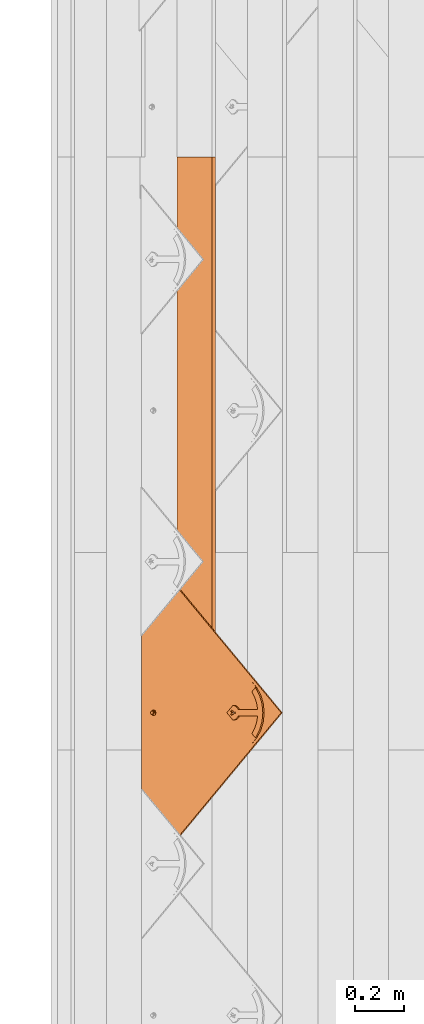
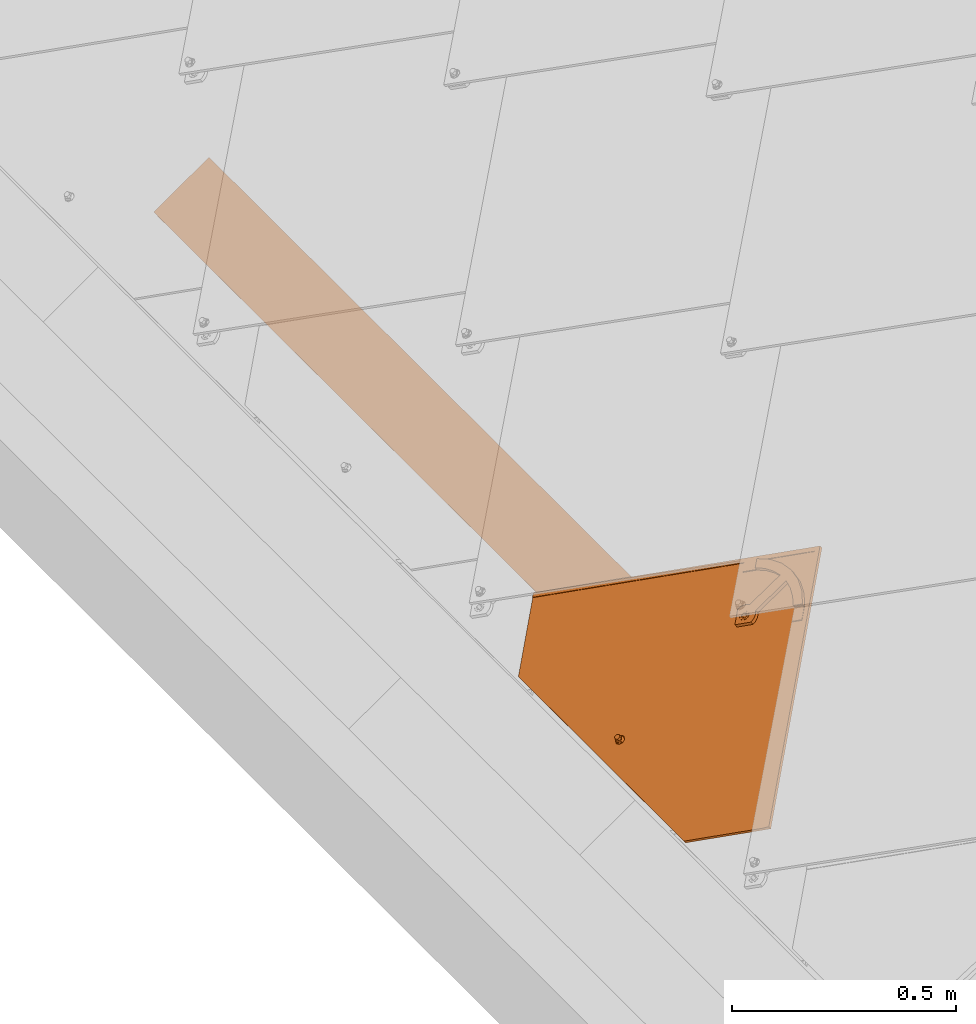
# One storey, part 52 of 151: 2 proxies, 1 element without a shape of its own.
"""IFC2X3 building model written with IfcOpenShell, lengths in millimetres."""

from ifc_helpers import new_model, entity, si_unit, converted_unit, derived_unit, direction, frame, frame_2d, origin, place, context, subcontext, project, spatial, rectangle, extrude, faceted_brep, source, transform, mapped, material, material_list, type_object, type_shapes, element, aggregate, save


model = new_model("IFC2X3")

# Units and contexts
model_context = context("Model", 3, precision=0.01, world=origin(), true_north=direction((6.12303176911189e-17, 1.0)))
body_context = subcontext(model_context, "Body", "Model", "MODEL_VIEW")
ifc_project = project(units=[si_unit("LENGTHUNIT", "METRE", prefix="MILLI"), si_unit("AREAUNIT", "SQUARE_METRE"), si_unit("VOLUMEUNIT", "CUBIC_METRE"), converted_unit("PLANEANGLEUNIT", "DEGREE", entity("IfcRatioMeasure", 0.0174532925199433), si_unit("PLANEANGLEUNIT", "RADIAN"), dimensions=[0, 0, 0, 0, 0, 0, 0]), si_unit("MASSUNIT", "GRAM", prefix="KILO"), derived_unit("MASSDENSITYUNIT", [(si_unit("MASSUNIT", "GRAM", prefix="KILO"), 1), (si_unit("LENGTHUNIT", "METRE"), -3)]), si_unit("TIMEUNIT", "SECOND"), si_unit("FREQUENCYUNIT", "HERTZ"), si_unit("THERMODYNAMICTEMPERATUREUNIT", "DEGREE_CELSIUS"), derived_unit("THERMALTRANSMITTANCEUNIT", [(si_unit("MASSUNIT", "GRAM", prefix="KILO"), 1), (si_unit("THERMODYNAMICTEMPERATUREUNIT", "KELVIN"), -1), (si_unit("TIMEUNIT", "SECOND"), -3)]), derived_unit("VOLUMETRICFLOWRATEUNIT", [(si_unit("LENGTHUNIT", "METRE"), 3), (si_unit("TIMEUNIT", "SECOND"), -1)]), si_unit("ELECTRICCURRENTUNIT", "AMPERE"), si_unit("ELECTRICVOLTAGEUNIT", "VOLT"), si_unit("POWERUNIT", "WATT"), si_unit("FORCEUNIT", "NEWTON", prefix="KILO"), si_unit("ILLUMINANCEUNIT", "LUX"), si_unit("LUMINOUSFLUXUNIT", "LUMEN"), si_unit("LUMINOUSINTENSITYUNIT", "CANDELA"), derived_unit("USERDEFINED", [(si_unit("MASSUNIT", "GRAM", prefix="KILO"), -1), (si_unit("LENGTHUNIT", "METRE"), -2), (si_unit("TIMEUNIT", "SECOND"), 3), (si_unit("LUMINOUSFLUXUNIT", "LUMEN"), 1)]), derived_unit("LINEARVELOCITYUNIT", [(si_unit("LENGTHUNIT", "METRE"), 1), (si_unit("TIMEUNIT", "SECOND"), -1)]), si_unit("PRESSUREUNIT", "PASCAL"), derived_unit("USERDEFINED", [(si_unit("LENGTHUNIT", "METRE"), -2), (si_unit("MASSUNIT", "GRAM", prefix="KILO"), 1), (si_unit("TIMEUNIT", "SECOND"), -2)])], contexts=[model_context])

# Site, building, storey
site_placement = place(None, origin())
site = spatial("IfcSite", under=ifc_project, at=site_placement, Name="Default", CompositionType="ELEMENT")
building_placement = place(site_placement, origin())
building = spatial("IfcBuilding", under=site, at=building_placement, CompositionType="ELEMENT")
storey_placement = place(building_placement, origin())
storey = spatial("IfcBuildingStorey", under=building, at=storey_placement, Name="Level 1", CompositionType="ELEMENT", Elevation=0.0)

# Assembly, proxy
assembly_placement = place(storey_placement, origin())
assembly = element("IfcElementAssembly", 1, at=assembly_placement, inside=storey, Name="Structural Framing Assembly:Roof Construction Assembly", ObjectType="Structural Framing Assembly:Roof Construction Assembly", AssemblyPlace="NOTDEFINED", PredefinedType="USERDEFINED")
ifc_material_1 = material(Name="Wood - Generic - Wood For Showcase")
building_element_proxy_type_1 = type_object("IfcBuildingElementProxyType", Name="Structural Framing 15", PredefinedType="NOTDEFINED", material=ifc_material_1)
shared_shape_1 = source(origin(), body_context, "Body", "SweptSolid", [
    extrude(rectangle(XDim=24.9999999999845, YDim=174.344679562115, at=frame_2d((-1.77635683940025e-13, -4.54747350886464e-13), x_axis=(0.0, 1.0))), frame((1128.20180147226, 1525.55080214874, 2760.23940055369), z_axis=(0.0, 1.0, 0.0), x_axis=(-0.819152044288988, 0.0, -0.573576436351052)), (0.0, 0.0, 1.0), 2399.99999999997),
])
type_shapes(building_element_proxy_type_1, [shared_shape_1])
proxy_1_placement = place(assembly_placement, frame((-3227.25254439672, -870.0, -2300.0)))
proxy_1 = element("IfcBuildingElementProxy", 2, at=proxy_1_placement, type_object=building_element_proxy_type_1, material=ifc_material_1, Name="Structural Framing 130:Structural Framing 15", ObjectType="Structural Framing 130:Structural Framing 15", context=body_context, shape_type="MappedRepresentation", body=[
    mapped(shared_shape_1, transform((0.0, 0.0, 0.0), scale=1.0)),
])
aggregate(assembly, [proxy_1])

# Proxy
ifc_material_2 = material(Name="Rubber - Sunstyle - Black")
ifc_material_3 = material(Name="Glass - Sunstyle - Tainted Black")
ifc_material_list_1 = material_list([ifc_material_2, ifc_material_3])
ifc_material_list_2 = material_list([ifc_material_2, ifc_material_3])
building_element_proxy_type_2 = type_object("IfcBuildingElementProxyType", Name="Shingle Bottom - Black", PredefinedType="NOTDEFINED", material=ifc_material_list_2)
shared_shape_2 = source(origin(), body_context, "Body", "Brep", [
    faceted_brep([(0.0, -1.79273515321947, -4.01619789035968), (-5.7742028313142, -5.12600528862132, -3.96037390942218), (-5.77420283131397, -4.75769619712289, 18.0314954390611), (0.0, -1.42442606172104, 17.9756714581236), (-5.77420283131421, -11.792545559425, -3.84872594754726), (-5.77420283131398, -11.4242364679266, 18.143143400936), (0.0, -15.1258156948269, -3.79290196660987), (0.0, -14.7575066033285, 18.1989673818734), (5.77420283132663, -11.7925455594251, -3.84872594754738), (5.77420283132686, -11.4242364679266, 18.1431434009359), (5.77420283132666, -5.12600528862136, -3.96037390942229), (5.77420283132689, -4.75769619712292, 18.031495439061), (-8.60370416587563, -16.6934641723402, 18.2313898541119), (0.0, -20.2567354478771, 18.2910657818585), (-12.1674751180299, -8.09096633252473, 18.0873194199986), (-8.60370416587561, 0.511531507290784, 17.9432489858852), (0.0, 4.07480278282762, 17.8835730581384), (8.60370416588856, 0.511531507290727, 17.9432489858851), (12.1674751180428, -8.09096633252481, 18.0873194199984), (8.60370416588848, -16.6934641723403, 18.2313898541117), (-11.4302228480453, -6.71737066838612, 20.4858706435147), (-9.77051349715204, -8.02009729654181, 22.3189355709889), (0.0, -0.706876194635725, 22.9603444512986), (0.0, 0.533621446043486, 22.3799978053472), (0.0, 2.69117229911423, 21.3706227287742), (-6.32324569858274, -4.35709193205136, 23.021476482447), (-6.32324569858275, -11.6575234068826, 23.1437405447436), (0.0, -18.7571148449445, 21.7298281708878), (0.0, -15.3077391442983, 23.2048725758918), (10.9851748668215, -11.808022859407, 20.3827540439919), (10.123850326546, -8.02413622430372, 22.0777687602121), (6.32324569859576, -4.3570919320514, 23.0214764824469), (6.32324569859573, -11.6575234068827, 23.1437405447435), (-6.32324569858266, -11.5234949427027, 31.146628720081), (0.0, -15.1737106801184, 31.2077607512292), (0.0, -7.8732792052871, 31.0854966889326), (-6.32324569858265, -4.22306346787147, 31.0243646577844), (6.32324569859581, -11.5234949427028, 31.1466287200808), (6.32324569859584, -4.22306346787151, 31.0243646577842), (0.0, -0.57284773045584, 30.963232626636), (0.0, -8.45927542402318, -3.90454992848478)], [[[0, 1, 2, 3]], [[1, 4, 5, 2]], [[4, 6, 7, 5]], [[6, 8, 9, 7]], [[8, 10, 11, 9]], [[10, 0, 3, 11]], [[12, 7, 13]], [[7, 12, 5]], [[14, 5, 12]], [[5, 14, 2]], [[15, 2, 14]], [[3, 2, 15]], [[15, 16, 3]], [[16, 17, 3]], [[11, 3, 17]], [[11, 17, 18]], [[9, 11, 18]], [[18, 19, 9]], [[7, 9, 19]], [[19, 13, 7]], [[15, 20, 16]], [[21, 22, 23, 24]], [[22, 21, 25]], [[20, 14, 12]], [[15, 14, 20]], [[25, 21, 26]], [[20, 24, 16]], [[12, 13, 27]], [[12, 27, 20]], [[21, 28, 26]], [[21, 27, 28]], [[20, 21, 24]], [[20, 27, 21]], [[19, 29, 13]], [[30, 23, 31]], [[30, 28, 27]], [[24, 23, 30]], [[29, 27, 13]], [[19, 18, 29]], [[29, 30, 27]], [[29, 17, 24]], [[24, 17, 16]], [[31, 32, 30]], [[23, 22, 31]], [[28, 30, 32]], [[29, 24, 30]], [[29, 18, 17]], [[33, 34, 35]], [[35, 36, 33]], [[34, 37, 35]], [[38, 35, 37]], [[35, 38, 39]], [[35, 39, 36]], [[40, 6, 4]], [[4, 1, 40]], [[1, 0, 40]], [[40, 8, 6]], [[0, 10, 40]], [[8, 40, 10]], [[22, 25, 36, 39]], [[25, 26, 33, 36]], [[26, 28, 34, 33]], [[28, 32, 37, 34]], [[32, 31, 38, 37]], [[31, 22, 39, 38]]]),
    faceted_brep([(0.0, 372.824876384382, 20.3195200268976), (0.0, 377.324245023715, 20.2441667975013), (-8.60370416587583, 376.388147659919, 20.2598440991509), (8.60370416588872, 376.388147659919, 20.2598440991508), (6.64022859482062, 381.157445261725, 20.1799702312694), (12.1674751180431, 384.990645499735, 20.1157736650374), (6.64022859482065, 388.823845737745, 20.0515770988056), (8.6037041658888, 393.59314333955, 19.9717032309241), (0.0, 392.657045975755, 19.9873805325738), (0.0, 397.156414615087, 19.9120273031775), (-8.60370416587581, 393.59314333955, 19.9717032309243), (-6.64022859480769, 388.823845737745, 20.0515770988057), (-12.1674751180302, 384.990645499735, 20.1157736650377), (-6.6402285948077, 381.157445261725, 20.1799702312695), (-6.6402282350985, 388.555922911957, 4.05382046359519), (0.0, 392.389122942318, 3.98962390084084), (-6.64022823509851, 380.889522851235, 4.18221358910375), (0.0, 377.056322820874, 4.24641015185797), (6.64022823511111, 380.889522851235, 4.18221358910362), (6.64022823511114, 388.555922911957, 4.05382046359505), (-8.603704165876, 376.12022504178, 4.26208746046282), (0.0, 372.556953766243, 4.32176338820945), (-12.1674751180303, 384.722722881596, 4.11801702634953), (-8.60370416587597, 393.325220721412, 3.97394659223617), (0.0, 396.888491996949, 3.91427066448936), (8.60370416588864, 393.325220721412, 3.97394659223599), (12.1674751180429, 384.722722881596, 4.11801702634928), (8.60370416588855, 376.12022504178, 4.26208746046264)], [[[0, 1, 2]], [[1, 0, 3]], [[3, 4, 1]], [[4, 3, 5]], [[6, 4, 5]], [[5, 7, 6]], [[7, 8, 6]], [[8, 7, 9]], [[8, 9, 10]], [[10, 11, 8]], [[12, 11, 10]], [[2, 13, 12]], [[12, 13, 11]], [[13, 2, 1]], [[8, 11, 14, 15]], [[11, 13, 16, 14]], [[13, 1, 17, 16]], [[1, 4, 18, 17]], [[4, 6, 19, 18]], [[6, 8, 15, 19]], [[20, 17, 21]], [[17, 20, 16]], [[22, 16, 20]], [[14, 16, 22]], [[23, 14, 22]], [[15, 14, 23]], [[23, 24, 15]], [[24, 25, 15]], [[19, 15, 25]], [[19, 25, 26]], [[26, 18, 19]], [[26, 27, 18]], [[17, 18, 27]], [[27, 21, 17]], [[24, 23, 10, 9]], [[10, 23, 22, 12]], [[20, 21, 0, 2]], [[20, 2, 12, 22]], [[21, 27, 3, 0]], [[3, 27, 26, 5]], [[25, 24, 9, 7]], [[25, 7, 5, 26]]]),
    faceted_brep([(518.247351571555, 79.9143812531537, 14.965257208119), (526.732038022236, 88.3990677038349, 14.8231598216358), (526.732038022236, 88.4241854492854, 16.3229495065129), (518.247351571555, 79.9394989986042, 16.4650468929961), (0.000322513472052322, 598.016093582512, 6.28834266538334), (-518.246706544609, 79.9143812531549, 14.9652572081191), (-526.73139299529, 88.3990677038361, 14.8231598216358), (0.000322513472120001, 614.983087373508, 6.00418773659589), (0.000322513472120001, 615.008205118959, 7.50397742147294), (-526.731392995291, 88.4241854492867, 16.3229495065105), (-518.246706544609, 79.9394989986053, 16.465046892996), (0.000322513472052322, 598.041211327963, 7.78813235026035)], [[[0, 1, 2, 3]], [[1, 0, 4, 5, 6, 7]], [[2, 1, 7, 8]], [[3, 2, 8, 9, 10, 11]], [[0, 3, 11, 4]], [[5, 10, 9, 6]], [[8, 7, 6, 9]], [[4, 11, 10, 5]]]),
    faceted_brep([(0.00032251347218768, 614.983087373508, 6.00418773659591), (-2.87802047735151, 396.187349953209, 9.66847193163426), (0.227808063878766, 396.596182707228, 9.6616250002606), (-5.77219193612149, 394.988712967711, 9.68854611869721), (3.3336366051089, 396.187349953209, 9.66847193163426), (6.22780806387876, 394.988712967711, 9.6885461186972), (8.71308943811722, 393.081956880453, 9.72047953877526), (10.620112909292, 390.59702396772, 9.76209598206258), (-8.25747331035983, 393.081956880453, 9.72047953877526), (-10.1644967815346, 390.59702396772, 9.76209598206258), (-11.3633018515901, 387.703258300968, 9.81055935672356), (-526.731392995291, 88.3990677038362, 14.8231598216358), (11.8189179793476, 387.703258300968, 9.81055935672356), (526.732038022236, 88.3990677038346, 14.8231598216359), (-11.7721919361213, 384.597865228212, 9.86256696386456), (-11.3633018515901, 381.492472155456, 9.91457457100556), (-10.1644967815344, 378.598706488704, 9.96303794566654), (-370.355016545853, -67.9334607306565, 17.4413406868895), (-8.25747331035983, 376.113773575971, 10.0046543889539), (-5.65685424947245, -2.29422365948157, 16.3420467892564), (-6.92820323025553, -3.95084560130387, 16.3697910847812), (-7.72740661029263, -5.88002271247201, 16.4021000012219), (-8.0, -7.95028476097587, 16.4367717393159), (-7.72740661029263, -10.0205468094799, 16.4714434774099), (-6.9282032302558, -11.9497239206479, 16.5037523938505), (-5.65685424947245, -13.6063458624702, 16.5314966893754), (-4.0, -14.8775165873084, 16.5527856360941), (-2.07055236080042, -15.676607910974, 16.5661684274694), (0.0, -15.9491630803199, 16.5707330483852), (370.355661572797, -67.9334607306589, 17.4413406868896), (10.620112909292, 378.598706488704, 9.96303794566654), (8.71308943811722, 376.11377357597, 10.0046543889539), (5.65685424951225, -2.29422365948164, 16.3420467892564), (6.92820323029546, -3.9508456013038, 16.3697910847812), (7.72740661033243, -5.88002271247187, 16.4021000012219), (8.0, -7.9502847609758, 16.4367717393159), (7.72740661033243, -10.0205468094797, 16.4714434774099), (6.92820323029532, -11.9497239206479, 16.5037523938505), (5.65685424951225, -13.6063458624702, 16.5314966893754), (4.0, -14.8775165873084, 16.5527856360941), (2.07055236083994, -15.676607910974, 16.5661684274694), (-5.77219193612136, 374.207017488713, 10.0365878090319), (-4.0, -1.02305293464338, 16.3207578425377), (-2.87802047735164, 373.008380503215, 10.0566619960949), (-2.07055236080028, -0.223961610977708, 16.3073750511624), (0.227808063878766, 372.599547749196, 10.0635089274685), (0.0, 0.0485935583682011, 16.3028104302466), (2.07055236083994, -0.223961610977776, 16.3073750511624), (3.3336366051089, 373.008380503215, 10.0566619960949), (4.0, -1.02305293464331, 16.3207578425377), (6.22780806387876, 374.207017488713, 10.0365878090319), (12.2278080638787, 384.597865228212, 9.86256696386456), (11.8189179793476, 381.492472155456, 9.91457457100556), (-370.355016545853, -68.059049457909, 9.94239226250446), (-6.92820323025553, -4.07643432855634, 8.87084266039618), (-7.72740661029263, -6.00561143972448, 8.90315157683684), (-8.0, -8.07587348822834, 8.93782331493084), (-7.72740661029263, -10.1461355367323, 8.97249505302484), (-6.9282032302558, -12.0753126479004, 9.00480396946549), (-5.65685424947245, -13.7319345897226, 9.03254826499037), (-5.65685424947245, -2.41981238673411, 8.8430983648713), (-8.25747331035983, 375.988184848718, 2.50570596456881), (-4.0, -15.0031053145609, 9.05383721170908), (-2.07055236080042, -15.8021966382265, 9.06722000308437), (0.0, -16.0747518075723, 9.07178462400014), (370.355661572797, -68.0590494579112, 9.9423922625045), (-10.1644967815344, 378.473117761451, 2.46408952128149), (-526.731392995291, 88.2734789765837, 7.32421139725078), (-11.3633018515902, 381.366883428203, 2.41562614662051), (-11.7721919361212, 384.472276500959, 2.36361853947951), (-11.3633018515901, 387.577669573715, 2.3116109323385), (0.00032251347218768, 614.857498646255, -1.49476068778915), (-10.1644967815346, 390.471435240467, 2.26314755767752), (-8.25747331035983, 392.956368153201, 2.22153111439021), (-5.77219193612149, 394.863124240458, 2.18959769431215), (-2.87802047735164, 396.061761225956, 2.16952350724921), (0.227808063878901, 396.470593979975, 2.16267657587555), (3.3336366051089, 396.061761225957, 2.1695235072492), (6.22780806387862, 394.863124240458, 2.18959769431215), (8.71308943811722, 392.956368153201, 2.2215311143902), (10.620112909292, 390.471435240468, 2.26314755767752), (11.8189179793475, 387.577669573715, 2.31161093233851), (526.732038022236, 88.2734789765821, 7.32421139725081), (12.2278080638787, 384.472276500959, 2.3636185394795), (10.620112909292, 378.473117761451, 2.46408952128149), (11.8189179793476, 381.366883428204, 2.41562614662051), (-5.77219193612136, 374.08142876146, 2.53763938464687), (-4.0, -1.14864166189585, 8.8218094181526), (-2.87802047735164, 372.882791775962, 2.55771357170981), (-2.07055236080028, -0.349550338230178, 8.8084266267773), (0.227808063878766, 372.473959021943, 2.56456050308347), (0.0, -0.0769951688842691, 8.80386200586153), (2.07055236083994, -0.349550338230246, 8.8084266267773), (3.3336366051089, 372.882791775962, 2.55771357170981), (4.0, -1.14864166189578, 8.8218094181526), (6.22780806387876, 374.081428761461, 2.53763938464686), (5.65685424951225, -2.41981238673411, 8.8430983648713), (8.71308943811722, 375.988184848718, 2.50570596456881), (6.92820323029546, -4.07643432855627, 8.87084266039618), (7.72740661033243, -6.00561143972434, 8.90315157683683), (8.0, -8.07587348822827, 8.93782331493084), (7.72740661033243, -10.1461355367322, 8.97249505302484), (6.92820323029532, -12.0753126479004, 9.00480396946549), (5.65685424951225, -13.7319345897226, 9.03254826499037), (4.0, -15.0031053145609, 9.05383721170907), (2.07055236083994, -15.8021966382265, 9.06722000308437)], [[[0, 1, 2]], [[1, 0, 3]], [[0, 2, 4]], [[4, 5, 0]], [[5, 6, 0]], [[0, 6, 7]], [[8, 3, 0]], [[9, 8, 0]], [[9, 0, 10]], [[10, 0, 11]], [[12, 0, 7]], [[12, 13, 0]], [[11, 14, 10]], [[14, 11, 15]], [[16, 15, 11]], [[11, 17, 16]], [[16, 17, 18]], [[19, 18, 17]], [[19, 17, 20]], [[20, 17, 21]], [[22, 21, 17]], [[22, 17, 23]], [[24, 23, 17]], [[17, 25, 24]], [[26, 25, 17]], [[27, 26, 17]], [[17, 28, 27]], [[28, 17, 29]], [[29, 13, 30]], [[29, 30, 31]], [[29, 31, 32]], [[32, 33, 29]], [[33, 34, 29]], [[35, 29, 34]], [[29, 35, 36]], [[36, 37, 29]], [[29, 37, 38]], [[38, 39, 29]], [[40, 28, 29]], [[39, 40, 29]], [[41, 18, 19]], [[42, 41, 19]], [[42, 43, 41]], [[44, 43, 42]], [[44, 45, 43]], [[46, 45, 44]], [[47, 45, 46]], [[48, 45, 47]], [[49, 48, 47]], [[49, 50, 48]], [[32, 50, 49]], [[32, 31, 50]], [[12, 51, 13]], [[52, 13, 51]], [[13, 52, 30]], [[53, 54, 55]], [[53, 55, 56]], [[56, 57, 53]], [[57, 58, 53]], [[53, 58, 59]], [[60, 54, 53]], [[61, 60, 53]], [[59, 62, 53]], [[62, 63, 53]], [[63, 64, 53]], [[53, 64, 65]], [[66, 61, 53]], [[66, 53, 67]], [[68, 66, 67]], [[69, 68, 67]], [[69, 67, 70]], [[67, 71, 70]], [[72, 70, 71]], [[73, 72, 71]], [[71, 74, 73]], [[74, 71, 75]], [[75, 71, 76]], [[77, 76, 71]], [[77, 71, 78]], [[79, 78, 71]], [[71, 80, 79]], [[80, 71, 81]], [[71, 82, 81]], [[83, 81, 82]], [[84, 82, 65]], [[85, 82, 84]], [[82, 85, 83]], [[86, 60, 61]], [[86, 87, 60]], [[88, 87, 86]], [[89, 87, 88]], [[90, 89, 88]], [[90, 91, 89]], [[92, 91, 90]], [[92, 90, 93]], [[94, 92, 93]], [[93, 95, 94]], [[94, 95, 96]], [[97, 96, 95]], [[96, 97, 65]], [[84, 65, 97]], [[98, 96, 65]], [[99, 98, 65]], [[99, 65, 100]], [[101, 100, 65]], [[102, 101, 65]], [[103, 102, 65]], [[104, 103, 65]], [[105, 104, 65]], [[65, 64, 105]], [[11, 0, 71, 67]], [[17, 11, 67, 53]], [[13, 29, 65, 82]], [[0, 13, 82, 71]], [[22, 56, 55, 21]], [[21, 55, 54, 20]], [[42, 19, 60, 87]], [[60, 19, 20, 54]], [[44, 42, 87, 89]], [[44, 89, 91, 46]], [[46, 91, 92, 47]], [[47, 92, 94, 49]], [[33, 32, 96, 98]], [[96, 32, 49, 94]], [[34, 33, 98, 99]], [[34, 99, 100, 35]], [[35, 100, 101, 36]], [[36, 101, 102, 37]], [[39, 38, 103, 104]], [[103, 38, 37, 102]], [[40, 39, 104, 105]], [[40, 105, 64, 28]], [[28, 64, 63, 27]], [[27, 63, 62, 26]], [[24, 25, 59, 58]], [[59, 25, 26, 62]], [[23, 24, 58, 57]], [[23, 57, 56, 22]], [[14, 69, 70, 10]], [[10, 70, 72, 9]], [[3, 8, 73, 74]], [[73, 8, 9, 72]], [[1, 3, 74, 75]], [[1, 75, 76, 2]], [[2, 76, 77, 4]], [[4, 77, 78, 5]], [[7, 6, 79, 80]], [[79, 6, 5, 78]], [[12, 7, 80, 81]], [[12, 81, 83, 51]], [[51, 83, 85, 52]], [[52, 85, 84, 30]], [[50, 31, 97, 95]], [[97, 31, 30, 84]], [[48, 50, 95, 93]], [[48, 93, 90, 45]], [[45, 90, 88, 43]], [[43, 88, 86, 41]], [[16, 18, 61, 66]], [[41, 86, 61, 18]], [[68, 15, 16, 66]], [[15, 68, 69, 14]], [[29, 17, 53, 65]]]),
    faceted_brep([(-111.269043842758, 451.472531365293, 11.2429332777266), (-84.9443960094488, 477.793488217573, 10.8021227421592), (-102.027571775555, 494.874268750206, 10.5160621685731), (-108.279973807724, 489.512620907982, 10.6058564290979), (-114.2509690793, 483.839345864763, 10.7008696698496), (-128.946713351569, 469.147722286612, 10.9469178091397), (128.946713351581, 469.147722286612, 10.9469178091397), (114.250969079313, 483.839345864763, 10.7008696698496), (108.279973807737, 489.512620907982, 10.6058564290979), (102.027571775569, 494.874268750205, 10.5160621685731), (84.9431983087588, 477.794685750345, 10.802102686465), (111.269043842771, 451.472531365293, 11.2429332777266), (-8.48528137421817, 393.302959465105, 19.7181805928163), (-18.7041061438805, 407.484939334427, 19.4806677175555), (-23.2046504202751, 402.851933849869, 19.5582590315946), (-10.3923048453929, 390.818026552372, 19.7597970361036), (-6.0, 395.209715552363, 19.6862471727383), (-13.2999999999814, 411.02298750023, 19.4214142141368), (-3.10582854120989, 396.408352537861, 19.6661729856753), (0.0, 396.81718529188, 19.6593260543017), (13.3000000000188, 411.022987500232, 19.4214142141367), (3.10582854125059, 396.408352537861, 19.6661729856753), (6.0, 395.209715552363, 19.6862471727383), (18.7041061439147, 407.484939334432, 19.4806677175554), (8.48528137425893, 393.302959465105, 19.7181805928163), (23.2046504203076, 402.85193384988, 19.5582590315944), (10.3923048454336, 390.818026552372, 19.7597970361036), (26.5842195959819, 397.347783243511, 19.6504398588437), (11.5911099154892, 387.92426088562, 19.8082604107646), (28.6795527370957, 391.238383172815, 19.752757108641), (12.0, 384.818867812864, 19.8602680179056), (29.3894280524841, 384.818867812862, 19.8602680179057), (11.5911099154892, 381.713474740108, 19.9122756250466), (10.3923048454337, 378.819709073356, 19.9607389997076), (8.48528137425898, 376.334776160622, 20.0023554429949), (0.0, 355.433560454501, 20.3523987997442), (6.0, 374.428020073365, 20.034288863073), (3.10582854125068, 373.229383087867, 20.0543630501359), (0.0, 372.820550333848, 20.0612099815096), (-3.10582854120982, 373.229383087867, 20.0543630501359), (-6.0, 374.428020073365, 20.034288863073), (-8.48528137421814, 376.334776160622, 20.0023554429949), (-29.3894280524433, 384.818867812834, 19.8602680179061), (-10.3923048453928, 378.819709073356, 19.9607389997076), (-11.5911099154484, 381.713474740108, 19.9122756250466), (-12.0, 384.818867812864, 19.8602680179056), (-28.67955273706, 391.238383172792, 19.7527571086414), (-11.5911099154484, 387.92426088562, 19.8082604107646), (-26.5842195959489, 397.347783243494, 19.650439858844), (-13.2999999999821, 505.810987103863, 17.833951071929), (13.3000000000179, 505.810987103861, 17.833951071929), (0.0, 531.282600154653, 17.4073649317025), (36.4908407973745, 527.108634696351, 17.4772684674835), (38.7697427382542, 500.996106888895, 17.9145883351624), (71.096085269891, 514.802420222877, 17.6833669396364), (62.9243331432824, 491.592473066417, 18.0720758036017), (102.027571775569, 494.999857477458, 18.0150105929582), (84.9443960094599, 477.919076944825, 18.3010711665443), (-36.4908407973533, 527.108634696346, 17.4772684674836), (-38.7697427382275, 500.996106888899, 17.9145883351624), (-71.0960852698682, 514.802420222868, 17.6833669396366), (-62.9243331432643, 491.592473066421, 18.0720758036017), (-102.027571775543, 494.999857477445, 18.0150105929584), (-84.9443960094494, 477.919076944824, 18.3010711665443), (0.0, 355.266108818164, 10.3538009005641), (0.0, 372.653098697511, 10.0626120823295), (3.10582854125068, 373.06193145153, 10.0557651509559), (-3.10582854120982, 373.06193145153, 10.0557651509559), (6.0, 374.260568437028, 10.0356909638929), (8.48528137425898, 376.167324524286, 10.0037575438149), (29.3894280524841, 384.651416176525, 9.86167011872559), (-6.0, 374.260568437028, 10.0356909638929), (-8.48528137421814, 376.167324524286, 10.0037575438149), (-29.3894280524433, 384.651416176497, 9.86167011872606), (-10.3923048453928, 378.652257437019, 9.96214110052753), (-11.5911099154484, 381.546023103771, 9.91367772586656), (-12.0, 384.651416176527, 9.86167011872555), (-28.67955273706, 391.070931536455, 9.75415920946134), (-11.5911099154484, 387.756809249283, 9.80966251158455), (-26.5842195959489, 397.180331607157, 9.65184195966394), (-10.3923048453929, 390.650574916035, 9.76119913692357), (-23.2046504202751, 402.684482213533, 9.5596611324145), (-8.48528137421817, 393.135507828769, 9.71958269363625), (-18.7041061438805, 407.31748769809, 9.48206981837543), (-6.0, 395.042263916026, 9.6876492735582), (-13.2999999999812, 410.855535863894, 9.4228163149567), (-3.10582854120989, 396.240900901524, 9.66757508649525), (0.0, 396.649733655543, 9.66072815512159), (13.3000000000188, 410.855535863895, 9.42281631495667), (-13.2999999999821, 505.643535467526, 7.83535317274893), (13.3000000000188, 505.643535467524, 7.83535317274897), (0.0, 531.115148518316, 7.4087670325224), (-36.4908407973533, 526.94118306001, 7.47867056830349), (-38.7697427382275, 500.828655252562, 7.91599043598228), (-71.0960852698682, 514.634968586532, 7.68476904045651), (-62.9243331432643, 491.425021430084, 8.07347790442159), (-102.027571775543, 494.832405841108, 8.01641269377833), (-84.9431983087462, 477.752822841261, 8.30245321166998), (-108.279973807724, 489.470757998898, 8.10620695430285), (-114.2509690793, 483.79748295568, 8.2012201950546), (-111.269043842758, 451.430668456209, 8.74328380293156), (-128.946713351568, 469.105859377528, 8.44726833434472), (36.4908407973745, 526.941183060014, 7.47867056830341), (38.7697427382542, 500.828655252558, 7.91599043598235), (71.096085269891, 514.634968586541, 7.68476904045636), (62.9243331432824, 491.425021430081, 8.07347790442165), (102.027571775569, 494.832405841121, 8.01641269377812), (84.9443960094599, 477.751625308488, 8.30247326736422), (108.279973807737, 489.470757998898, 8.10620695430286), (114.250969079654, 483.797482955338, 8.20122019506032), (111.269043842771, 451.430668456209, 8.74328380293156), (128.946713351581, 469.105859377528, 8.44726833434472), (3.10582854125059, 396.240900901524, 9.66757508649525), (6.0, 395.042263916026, 9.6876492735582), (18.7041061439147, 407.317487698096, 9.48206981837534), (8.48528137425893, 393.135507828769, 9.71958269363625), (23.2046504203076, 402.684482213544, 9.55966113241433), (10.3923048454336, 390.650574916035, 9.76119913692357), (26.5842195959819, 397.180331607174, 9.65184195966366), (11.5911099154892, 387.756809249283, 9.80966251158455), (28.6795527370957, 391.070931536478, 9.75415920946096), (12.0, 384.651416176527, 9.86167011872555), (11.5911099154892, 381.546023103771, 9.91367772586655), (10.3923048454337, 378.652257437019, 9.96214110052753)], [[[0, 1, 2, 3, 4, 5]], [[6, 7, 8, 9, 10, 11]], [[12, 13, 14]], [[15, 12, 14]], [[16, 13, 12]], [[13, 16, 17]], [[17, 16, 18]], [[18, 19, 17]], [[20, 17, 19]], [[19, 21, 20]], [[22, 20, 21]], [[22, 23, 20]], [[22, 24, 23]], [[25, 23, 24]], [[26, 25, 24]], [[25, 26, 27]], [[26, 28, 27]], [[29, 27, 28]], [[28, 30, 29]], [[31, 29, 30]], [[30, 32, 31]], [[32, 33, 31]], [[31, 33, 34]], [[34, 35, 31]], [[34, 36, 35]], [[37, 35, 36]], [[38, 35, 37]], [[35, 38, 39]], [[40, 35, 39]], [[40, 41, 35]], [[42, 35, 41]], [[43, 42, 41]], [[43, 44, 42]], [[44, 45, 42]], [[45, 46, 42]], [[46, 45, 47]], [[48, 46, 47]], [[47, 15, 48]], [[48, 15, 14]], [[20, 49, 17]], [[49, 20, 50]], [[51, 49, 50]], [[50, 52, 51]], [[53, 52, 50]], [[52, 53, 54]], [[55, 54, 53]], [[54, 55, 56]], [[55, 57, 56]], [[58, 49, 51]], [[49, 58, 59]], [[60, 59, 58]], [[60, 61, 59]], [[61, 60, 62]], [[61, 62, 63]], [[64, 65, 66]], [[65, 64, 67]], [[64, 66, 68]], [[68, 69, 64]], [[64, 69, 70]], [[71, 67, 64]], [[71, 64, 72]], [[72, 64, 73]], [[73, 74, 72]], [[74, 73, 75]], [[76, 75, 73]], [[77, 76, 73]], [[76, 77, 78]], [[78, 77, 79]], [[80, 78, 79]], [[81, 80, 79]], [[82, 80, 81]], [[81, 83, 82]], [[83, 84, 82]], [[84, 83, 85]], [[85, 86, 84]], [[87, 86, 85]], [[87, 85, 88]], [[88, 85, 89]], [[88, 89, 90]], [[89, 91, 90]], [[91, 89, 92]], [[93, 92, 89]], [[94, 92, 93]], [[93, 95, 94]], [[95, 96, 94]], [[97, 96, 95]], [[98, 96, 97]], [[99, 98, 97]], [[97, 100, 99]], [[101, 99, 100]], [[102, 90, 91]], [[90, 102, 103]], [[104, 103, 102]], [[103, 104, 105]], [[105, 104, 106]], [[107, 105, 106]], [[107, 106, 108]], [[109, 107, 108]], [[110, 107, 109]], [[111, 110, 109]], [[87, 88, 112]], [[113, 112, 88]], [[114, 113, 88]], [[115, 113, 114]], [[115, 114, 116]], [[116, 117, 115]], [[116, 118, 117]], [[117, 118, 119]], [[119, 118, 120]], [[121, 119, 120]], [[120, 70, 121]], [[122, 121, 70]], [[70, 69, 123]], [[123, 122, 70]], [[17, 49, 89, 85]], [[13, 17, 85, 83]], [[14, 13, 83, 81]], [[81, 79, 48, 14]], [[46, 48, 79, 77]], [[42, 46, 77, 73]], [[35, 42, 73, 64]], [[31, 35, 64, 70]], [[29, 31, 70, 120]], [[27, 29, 120, 118]], [[118, 116, 25, 27]], [[23, 25, 116, 114]], [[20, 23, 114, 88]], [[50, 20, 88, 90]], [[9, 106, 104, 54, 56]], [[52, 54, 104, 102]], [[51, 52, 102, 91]], [[58, 51, 91, 92]], [[94, 96, 2, 62, 60]], [[60, 58, 92, 94]], [[45, 76, 78, 47]], [[47, 78, 80, 15]], [[16, 12, 82, 84]], [[80, 82, 12, 15]], [[18, 16, 84, 86]], [[87, 19, 18, 86]], [[21, 112, 113, 22]], [[22, 113, 115, 24]], [[28, 26, 117, 119]], [[115, 117, 26, 24]], [[30, 28, 119, 121]], [[21, 19, 87, 112]], [[30, 121, 122, 32]], [[32, 122, 123, 33]], [[36, 34, 69, 68]], [[123, 69, 34, 33]], [[37, 36, 68, 66]], [[65, 38, 37, 66]], [[39, 67, 71, 40]], [[40, 71, 72, 41]], [[44, 43, 74, 75]], [[72, 74, 43, 41]], [[45, 44, 75, 76]], [[39, 38, 65, 67]], [[7, 6, 111, 109]], [[6, 11, 110, 111]], [[7, 109, 108, 8]], [[108, 106, 9, 8]], [[11, 10, 107, 110]], [[0, 5, 101, 100]], [[1, 0, 100, 97]], [[2, 96, 98, 3]], [[98, 99, 4, 3]], [[5, 4, 99, 101]], [[63, 62, 2, 1]], [[56, 57, 10]], [[10, 9, 56]], [[1, 95, 61, 63]], [[1, 97, 95]], [[93, 89, 49, 59]], [[95, 93, 59, 61]], [[90, 103, 53, 50]], [[103, 105, 55, 53]], [[10, 57, 55]], [[107, 10, 105]], [[55, 105, 10]]]),
])
type_shapes(building_element_proxy_type_2, [shared_shape_2])
proxy_2_placement = place(storey_placement, frame((-2254.87293077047, 806.660326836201, 366.391212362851), z_axis=(-0.57357643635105, 0.0, 0.819152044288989), x_axis=(0.0, -1.0, 0.0)))
element("IfcBuildingElementProxy", 3, at=proxy_2_placement, inside=storey, type_object=building_element_proxy_type_2, material=ifc_material_list_1, Name="Roofing_Panels_SunStyle_Tile_Shingle-Bottom:Shingle Bottom - Black", ObjectType="Roofing_Panels_SunStyle_Tile_Shingle-Bottom:Shingle Bottom - Black", context=body_context, shape_type="MappedRepresentation", body=[
    mapped(shared_shape_2, transform((0.0, 0.0, 0.0), scale=1.0)),
])

save(model, "model.ifc")
